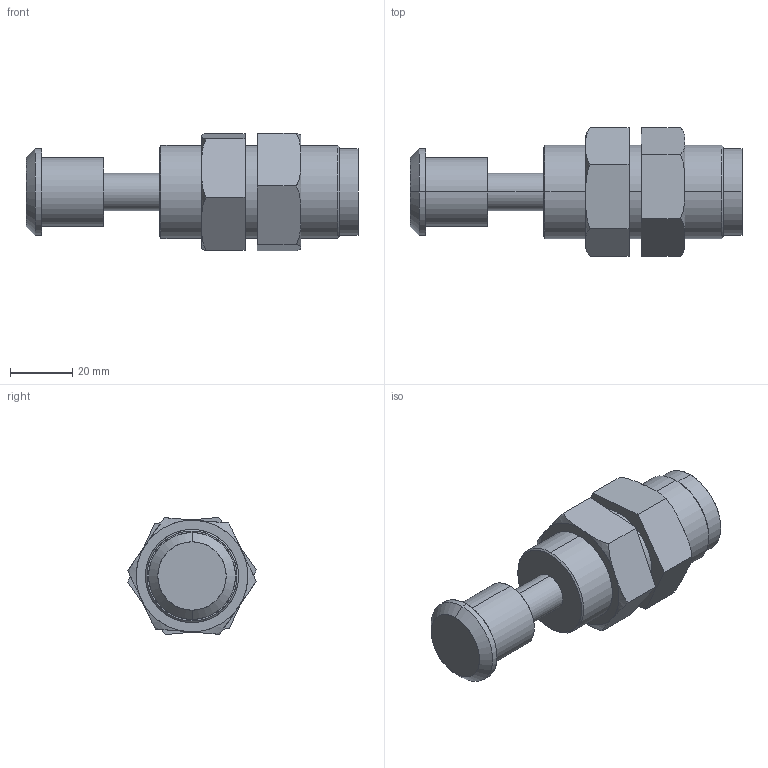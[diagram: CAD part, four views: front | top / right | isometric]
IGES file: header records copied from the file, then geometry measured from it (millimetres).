
Start section: SolidWorks IGES file using analytic representation for surfaces
Global section: file name: C:\Users\Sam Lin\Desktop\48\FSAE-3020.IGS; native system: SolidWorks 2013; preprocessor: SolidWorks 2013; author: Sam Lin; date: 160317.152452; units: metre
Bounding box: 107 x 41.43 x 37.78 mm (x, y, z)
Surface area: 18411.4 mm2 (no closed solid volume)
Topology: 0 solids, 0 shells, 54 faces, 1284 edges, 1284 vertices
Faces by surface type: bspline 34, revolution 20
